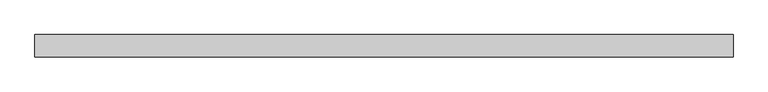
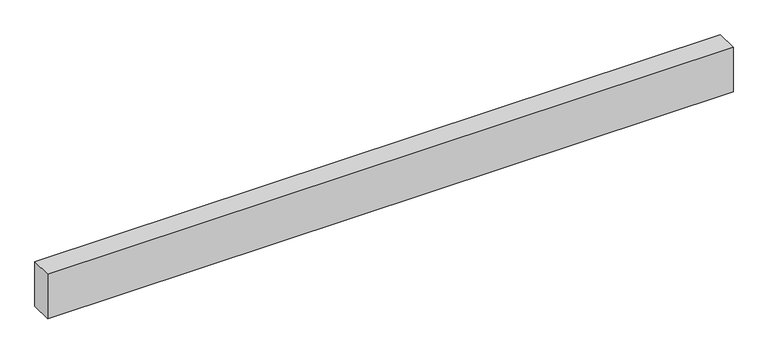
"""IFC4 building model written with IfcOpenShell, lengths in millimetres: proxy geometry."""

from ifc_helpers import new_model, si_unit, frame, origin, place, context, project, spatial, polyline, outline, extrude, source, transform, mapped, element, save


def structural_framing_a2221eec(model_context):
    return source(origin(), model_context, "Body", "SweptSolid", [
        extrude(outline(polyline([(-2197.8, -70.0), (-2197.8, 70.0), (2197.8, 70.0), (2197.8, -70.0), (-2197.8, -70.0)])), frame((0.0, 0.0, -300.0), z_axis=(0.0, 0.0, 1.0), x_axis=(1.0, 0.0, 0.0)), (0.0, 0.0, 1.0), 300.0),
    ])


if __name__ == "__main__":
    model = new_model("IFC4")
    model_context = context("Model", 3, world=origin())
    ifc_project = project(units=[si_unit("LENGTHUNIT", "METRE", prefix="MILLI")], contexts=[model_context])
    site = spatial("IfcSite", under=ifc_project)
    building = spatial("IfcBuilding", under=site)
    placement = place(None, origin())
    structural_framing_shape = structural_framing_a2221eec(model_context)
    element("IfcBuildingElementProxy", 1, Name="Structural Framing", at=placement, inside=building, context=model_context, shape_type="MappedRepresentation", body=[
        mapped(structural_framing_shape, transform((0.0, 0.0, 0.0), x_axis=(1.0, 0.0, 0.0), y_axis=(0.0, 1.0, 0.0), z_axis=(0.0, 0.0, 1.0))),
    ])
    save(model, "model.ifc")
